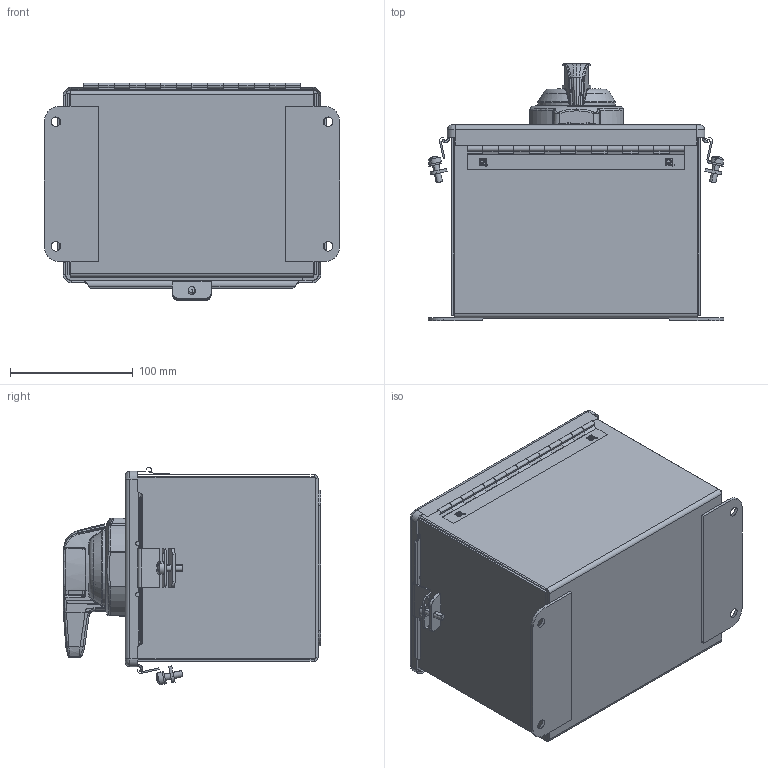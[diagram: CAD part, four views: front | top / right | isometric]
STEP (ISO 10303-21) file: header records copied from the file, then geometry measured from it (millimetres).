
FILE_DESCRIPTION((''),'2;1');
FILE_NAME('10001639858_ASM','2024-06-25T14:03:56',('LEQuenti'),('Rockwell Automation'),'CREO PARAMETRIC BY PTC INC, 2022424','CREO PARAMETRIC BY PTC INC, 2022424','');
FILE_SCHEMA(('AUTOMOTIVE_DESIGN { 1 0 10303 214 1 1 1 1 }'));
Length unit declared in the file: inch
Products named in the file (16): T198E-DF866D; 10000152984; 10000152986; 10000155457; 10000152990; 10000154088; 22182-524-01; 10000152991; 10000163643; 10000152989; 10000152997; 10000159370; 10000163593; 10000159226; 10000172475_ASM; 10001639858_ASM
Assembly tree (16 placements, depth 3):
  10001639858_ASM
    T198E-DF866D
    10000172475_ASM
      10000152984
      10000152986
      10000155457
      10000152990
      10000154088
      22182-524-01  x2
      10000152991
      10000163643
      10000152989
      10000152997
      10000159370
      10000163593
      10000159226
Bounding box: 241.38 x 210.48 x 177.55 mm (x, y, z)
Volume: 100768.6 mm3; surface area: 481691.7 mm2
Topology: 14 solids, 65 shells, 4169 faces, 11722 edges, 7685 vertices
Faces by surface type: plane 1814, cylinder 765, bspline 691, cone 575, torus 253, sphere 69, extrusion 2
Entity records: 207586 total; most frequent: CARTESIAN_POINT 70743, ORIENTED_EDGE 22164, DIRECTION 18472, PRESENTATION_STYLE_ASSIGNMENT 11745, STYLED_ITEM 11707, CURVE_STYLE 11669, EDGE_CURVE 11669, VERTEX_POINT 7653
